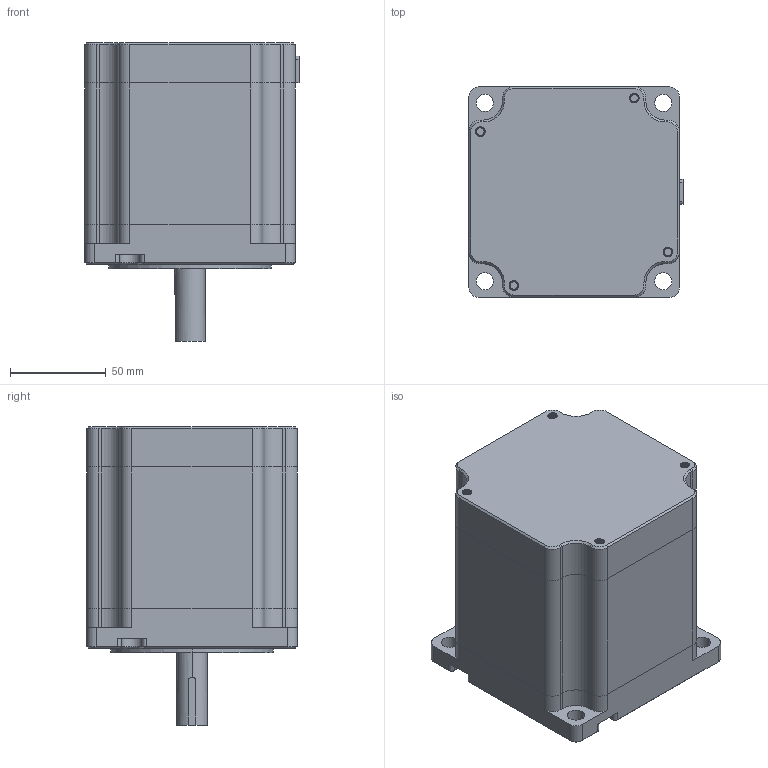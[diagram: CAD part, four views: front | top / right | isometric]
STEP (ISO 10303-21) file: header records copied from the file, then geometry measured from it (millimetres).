
FILE_DESCRIPTION((''),'2;1');
FILE_NAME('ABCD0E94C2B2YBOG_5','2021-11-18T10:23:14',('qingl'),(''),'CREO PARAMETRIC BY PTC INC, 2019224','CREO PARAMETRIC BY PTC INC, 2019224','');
FILE_SCHEMA(('CONFIG_CONTROL_DESIGN'));
Length unit declared in the file: millimetre
Products named in the file (1): ABCD0E94C2B2YBOG_5
Bounding box: 112 x 110 x 156 mm (x, y, z)
Volume: 1283073.1 mm3; surface area: 76434.9 mm2
Topology: 1 solids, 1 shells, 329 faces, 834 edges, 519 vertices
Faces by surface type: cylinder 187, plane 106, cone 28, bspline 8
Entity records: 13434 total; most frequent: CARTESIAN_POINT 5792, ORIENTED_EDGE 1668, DIRECTION 1446, EDGE_CURVE 834, VERTEX_POINT 519, AXIS2_PLACEMENT_3D 507, VECTOR 432, LINE 432
